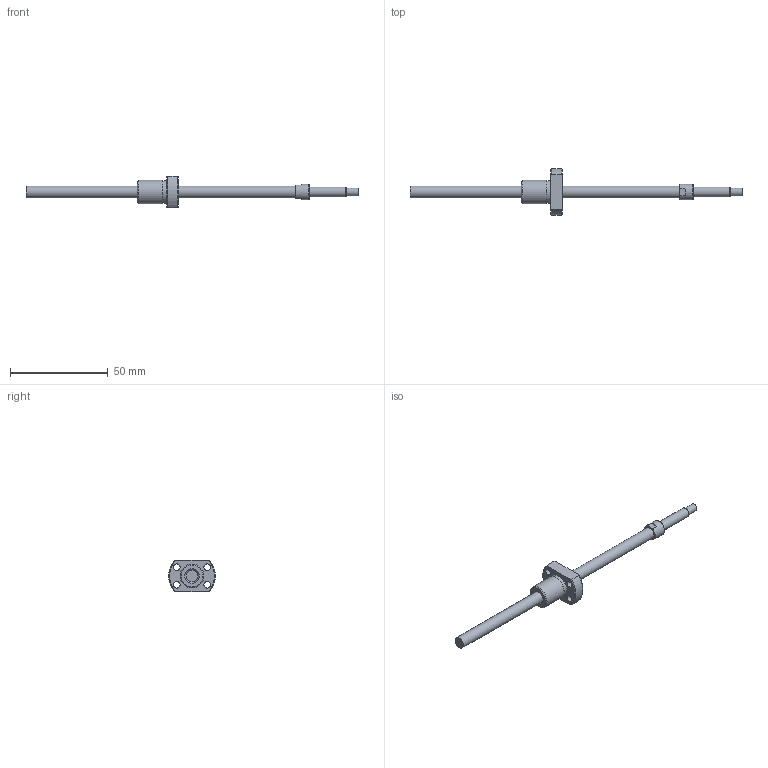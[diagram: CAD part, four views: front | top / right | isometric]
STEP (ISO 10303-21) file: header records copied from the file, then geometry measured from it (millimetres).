
FILE_DESCRIPTION(/* description */ ('STEP AP214'),/* implementation_level */ '2;1');
FILE_NAME(/* name */ 'NSGF0602Z-135R170C3-0-T-S-T-A-(57-S)',/* time_stamp */ '2026-08-24T20:05:25+02:00',/* author */ ('License CC BY-ND 4.0'),/* organization */ ('CADENAS'),/* preprocessor_version */ 'ST-DEVELOPER v20',/* originating_system */ 'PARTsolutions',/* authorisation */ ' ');
FILE_SCHEMA (('AUTOMOTIVE_DESIGN {1 0 10303 214 3 1 1}'));
Length unit declared in the file: millimetre
Products named in the file (3): NSGF0602Z-135R170C3-0-T-S-T-A-(57-S); NSG0602Z-135R170_(T-S_T-A_2)_2; NSGF0602Z-1
Assembly tree (2 placements, depth 2):
  NSGF0602Z-135R170C3-0-T-S-T-A-(57-S)
    NSG0602Z-135R170_(T-S_T-A_2)_2
    NSGF0602Z-1
Bounding box: 170 x 23.92 x 16 mm (x, y, z)
Volume: 7465.8 mm3; surface area: 5479.8 mm2
Topology: 2 solids, 2 shells, 39 faces, 85 edges, 56 vertices
Faces by surface type: plane 16, cylinder 14, cone 8, torus 1
Full cylindrical faces by diameter (mm): 3.4 x4, 4 x1, 5 x1, 6 x2, 8 x1, 10 x1, 11.7 x1, 12 x1
Entity records: 1065 total; most frequent: CARTESIAN_POINT 182, DIRECTION 180, ORIENTED_EDGE 128, AXIS2_PLACEMENT_3D 82, EDGE_LOOP 72, FACE_BOUND 72, EDGE_CURVE 64, VERTEX_POINT 52
